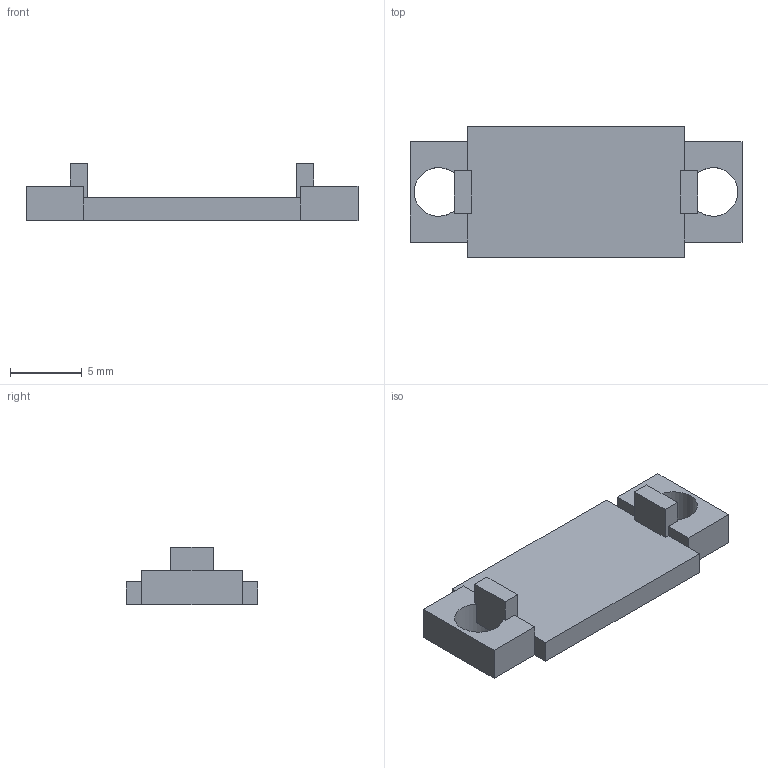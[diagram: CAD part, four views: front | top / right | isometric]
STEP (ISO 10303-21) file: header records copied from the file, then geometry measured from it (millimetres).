
FILE_DESCRIPTION(('FreeCAD Model'),'2;1');
FILE_NAME('Open CASCADE Shape Model','2026-11-20T08:25:39',('FreeCAD'),( 'FreeCAD'),'Open CASCADE STEP processor 7.8','FreeCAD','Unknown');
FILE_SCHEMA(('AUTOMOTIVE_DESIGN { 1 0 10303 214 1 1 1 1 }'));
Length unit declared in the file: millimetre
Products named in the file (1): Open CASCADE STEP translator 7.8 77
Bounding box: 23.2 x 9.2 x 4 mm (x, y, z)
Volume: 331 mm3; surface area: 576.5 mm2
Topology: 1 solids, 1 shells, 34 faces, 98 edges, 64 vertices
Faces by surface type: plane 32, cylinder 2
Full cylindrical faces by diameter (mm): 3.4 x2
Entity records: 1116 total; most frequent: CARTESIAN_POINT 197, ORIENTED_EDGE 196, DIRECTION 176, EDGE_CURVE 98, LINE 90, VECTOR 90, VERTEX_POINT 64, AXIS2_PLACEMENT_3D 43
